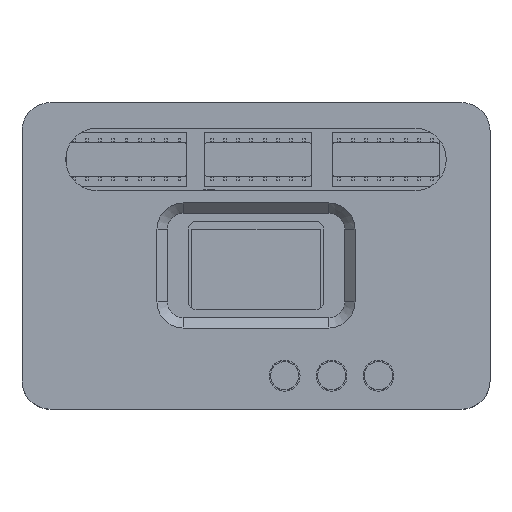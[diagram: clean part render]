
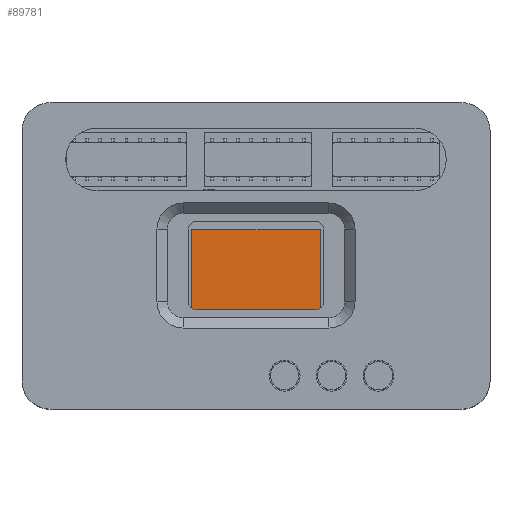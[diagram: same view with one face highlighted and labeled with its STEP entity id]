
A CAD part, top view. The second image highlights one B-rep face of the part: STEP entity #89781.
In plain terms, the highlighted planar face has unit normal (0, 0, 1).
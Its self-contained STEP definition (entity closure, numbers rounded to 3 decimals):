
#89467 = VERTEX_POINT('',#89468);
#89468 = CARTESIAN_POINT('',(30.13,15.13,15.7));
#89475 = PLANE('',#89476);
#89476 = AXIS2_PLACEMENT_3D('',#89477,#89478,#89479);
#89477 = CARTESIAN_POINT('',(30.13,15.13,13.8));
#89478 = DIRECTION('',(1.,0.,0.));
#89479 = DIRECTION('',(0.,0.,1.));
#89487 = PLANE('',#89488);
#89488 = AXIS2_PLACEMENT_3D('',#89489,#89490,#89491);
#89489 = CARTESIAN_POINT('',(30.13,15.13,13.8));
#89490 = DIRECTION('',(0.,1.,0.));
#89491 = DIRECTION('',(0.,0.,1.));
#89528 = VERTEX_POINT('',#89529);
#89529 = CARTESIAN_POINT('',(30.13,32.03,15.7));
#89543 = PLANE('',#89544);
#89544 = AXIS2_PLACEMENT_3D('',#89545,#89546,#89547);
#89545 = CARTESIAN_POINT('',(30.13,32.03,13.8));
#89546 = DIRECTION('',(0.,1.,0.));
#89547 = DIRECTION('',(0.,0.,1.));
#89555 = EDGE_CURVE('',#89467,#89528,#89556,.T.);
#89556 = SURFACE_CURVE('',#89557,(#89561,#89568),.PCURVE_S1.);
#89557 = LINE('',#89558,#89559);
#89558 = CARTESIAN_POINT('',(30.13,15.13,15.7));
#89559 = VECTOR('',#89560,1.);
#89560 = DIRECTION('',(0.,1.,0.));
#89561 = PCURVE('',#89475,#89562);
#89562 = DEFINITIONAL_REPRESENTATION('',(#89563),#89567);
#89563 = LINE('',#89564,#89565);
#89564 = CARTESIAN_POINT('',(1.9,0.));
#89565 = VECTOR('',#89566,1.);
#89566 = DIRECTION('',(0.,-1.));
#89567 = ( GEOMETRIC_REPRESENTATION_CONTEXT(2) 
PARAMETRIC_REPRESENTATION_CONTEXT() REPRESENTATION_CONTEXT('2D SPACE',''
  ) );
#89568 = PCURVE('',#89569,#89574);
#89569 = PLANE('',#89570);
#89570 = AXIS2_PLACEMENT_3D('',#89571,#89572,#89573);
#89571 = CARTESIAN_POINT('',(30.13,15.13,15.7));
#89572 = DIRECTION('',(0.,0.,1.));
#89573 = DIRECTION('',(1.,0.,0.));
#89574 = DEFINITIONAL_REPRESENTATION('',(#89575),#89579);
#89575 = LINE('',#89576,#89577);
#89576 = CARTESIAN_POINT('',(0.,0.));
#89577 = VECTOR('',#89578,1.);
#89578 = DIRECTION('',(0.,1.));
#89579 = ( GEOMETRIC_REPRESENTATION_CONTEXT(2) 
PARAMETRIC_REPRESENTATION_CONTEXT() REPRESENTATION_CONTEXT('2D SPACE',''
  ) );
#89587 = VERTEX_POINT('',#89588);
#89588 = CARTESIAN_POINT('',(54.87,15.13,15.7));
#89595 = PLANE('',#89596);
#89596 = AXIS2_PLACEMENT_3D('',#89597,#89598,#89599);
#89597 = CARTESIAN_POINT('',(54.87,15.13,13.8));
#89598 = DIRECTION('',(1.,0.,0.));
#89599 = DIRECTION('',(0.,0.,1.));
#89638 = VERTEX_POINT('',#89639);
#89639 = CARTESIAN_POINT('',(54.87,32.03,15.7));
#89660 = EDGE_CURVE('',#89587,#89638,#89661,.T.);
#89661 = SURFACE_CURVE('',#89662,(#89666,#89673),.PCURVE_S1.);
#89662 = LINE('',#89663,#89664);
#89663 = CARTESIAN_POINT('',(54.87,15.13,15.7));
#89664 = VECTOR('',#89665,1.);
#89665 = DIRECTION('',(0.,1.,0.));
#89666 = PCURVE('',#89595,#89667);
#89667 = DEFINITIONAL_REPRESENTATION('',(#89668),#89672);
#89668 = LINE('',#89669,#89670);
#89669 = CARTESIAN_POINT('',(1.9,0.));
#89670 = VECTOR('',#89671,1.);
#89671 = DIRECTION('',(0.,-1.));
#89672 = ( GEOMETRIC_REPRESENTATION_CONTEXT(2) 
PARAMETRIC_REPRESENTATION_CONTEXT() REPRESENTATION_CONTEXT('2D SPACE',''
  ) );
#89673 = PCURVE('',#89569,#89674);
#89674 = DEFINITIONAL_REPRESENTATION('',(#89675),#89679);
#89675 = LINE('',#89676,#89677);
#89676 = CARTESIAN_POINT('',(24.74,0.));
#89677 = VECTOR('',#89678,1.);
#89678 = DIRECTION('',(0.,1.));
#89679 = ( GEOMETRIC_REPRESENTATION_CONTEXT(2) 
PARAMETRIC_REPRESENTATION_CONTEXT() REPRESENTATION_CONTEXT('2D SPACE',''
  ) );
#89706 = EDGE_CURVE('',#89467,#89587,#89707,.T.);
#89707 = SURFACE_CURVE('',#89708,(#89712,#89719),.PCURVE_S1.);
#89708 = LINE('',#89709,#89710);
#89709 = CARTESIAN_POINT('',(30.13,15.13,15.7));
#89710 = VECTOR('',#89711,1.);
#89711 = DIRECTION('',(1.,0.,0.));
#89712 = PCURVE('',#89487,#89713);
#89713 = DEFINITIONAL_REPRESENTATION('',(#89714),#89718);
#89714 = LINE('',#89715,#89716);
#89715 = CARTESIAN_POINT('',(1.9,0.));
#89716 = VECTOR('',#89717,1.);
#89717 = DIRECTION('',(0.,1.));
#89718 = ( GEOMETRIC_REPRESENTATION_CONTEXT(2) 
PARAMETRIC_REPRESENTATION_CONTEXT() REPRESENTATION_CONTEXT('2D SPACE',''
  ) );
#89719 = PCURVE('',#89569,#89720);
#89720 = DEFINITIONAL_REPRESENTATION('',(#89721),#89725);
#89721 = LINE('',#89722,#89723);
#89722 = CARTESIAN_POINT('',(0.,0.));
#89723 = VECTOR('',#89724,1.);
#89724 = DIRECTION('',(1.,0.));
#89725 = ( GEOMETRIC_REPRESENTATION_CONTEXT(2) 
PARAMETRIC_REPRESENTATION_CONTEXT() REPRESENTATION_CONTEXT('2D SPACE',''
  ) );
#89753 = EDGE_CURVE('',#89528,#89638,#89754,.T.);
#89754 = SURFACE_CURVE('',#89755,(#89759,#89766),.PCURVE_S1.);
#89755 = LINE('',#89756,#89757);
#89756 = CARTESIAN_POINT('',(30.13,32.03,15.7));
#89757 = VECTOR('',#89758,1.);
#89758 = DIRECTION('',(1.,0.,0.));
#89759 = PCURVE('',#89543,#89760);
#89760 = DEFINITIONAL_REPRESENTATION('',(#89761),#89765);
#89761 = LINE('',#89762,#89763);
#89762 = CARTESIAN_POINT('',(1.9,0.));
#89763 = VECTOR('',#89764,1.);
#89764 = DIRECTION('',(0.,1.));
#89765 = ( GEOMETRIC_REPRESENTATION_CONTEXT(2) 
PARAMETRIC_REPRESENTATION_CONTEXT() REPRESENTATION_CONTEXT('2D SPACE',''
  ) );
#89766 = PCURVE('',#89569,#89767);
#89767 = DEFINITIONAL_REPRESENTATION('',(#89768),#89772);
#89768 = LINE('',#89769,#89770);
#89769 = CARTESIAN_POINT('',(0.,16.9));
#89770 = VECTOR('',#89771,1.);
#89771 = DIRECTION('',(1.,0.));
#89772 = ( GEOMETRIC_REPRESENTATION_CONTEXT(2) 
PARAMETRIC_REPRESENTATION_CONTEXT() REPRESENTATION_CONTEXT('2D SPACE',''
  ) );
#89781 = ADVANCED_FACE('',(#89782),#89569,.T.);
#89782 = FACE_BOUND('',#89783,.T.);
#89783 = EDGE_LOOP('',(#89784,#89785,#89786,#89787));
#89784 = ORIENTED_EDGE('',*,*,#89555,.F.);
#89785 = ORIENTED_EDGE('',*,*,#89706,.T.);
#89786 = ORIENTED_EDGE('',*,*,#89660,.T.);
#89787 = ORIENTED_EDGE('',*,*,#89753,.F.);
